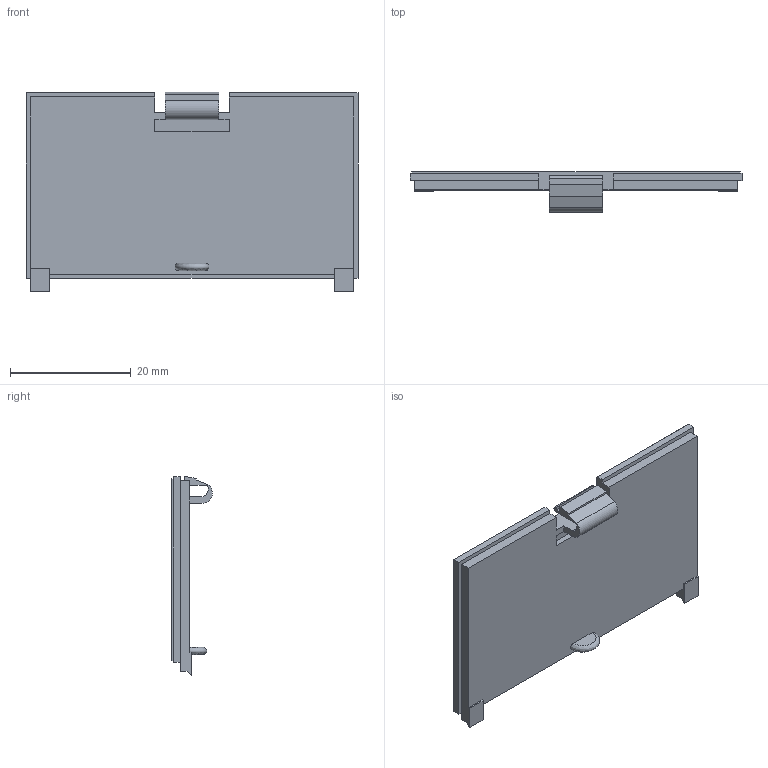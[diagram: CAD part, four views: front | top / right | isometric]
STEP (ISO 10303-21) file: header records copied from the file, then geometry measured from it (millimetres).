
FILE_DESCRIPTION (( 'STEP AP214' ), '1' );
FILE_NAME ('Tapeta PP26.STEP', '2018-07-02T07:47:52', ( 'aaa' ), ( '' ), 'SwSTEP 2.0', 'SolidWorks 2013', '' );
FILE_SCHEMA (( 'AUTOMOTIVE_DESIGN' ));
Length unit declared in the file: millimetre
Products named in the file (1): Tapeta PP26
Bounding box: 54.9 x 6.73 x 32.98 mm (x, y, z)
Volume: 4852.1 mm3; surface area: 4129.8 mm2
Topology: 1 solids, 1 shells, 57 faces, 158 edges, 104 vertices
Faces by surface type: plane 52, cylinder 4, bspline 1
Entity records: 2067 total; most frequent: CARTESIAN_POINT 579, ORIENTED_EDGE 316, DIRECTION 276, EDGE_CURVE 158, LINE 146, VECTOR 146, VERTEX_POINT 104, AXIS2_PLACEMENT_3D 65
